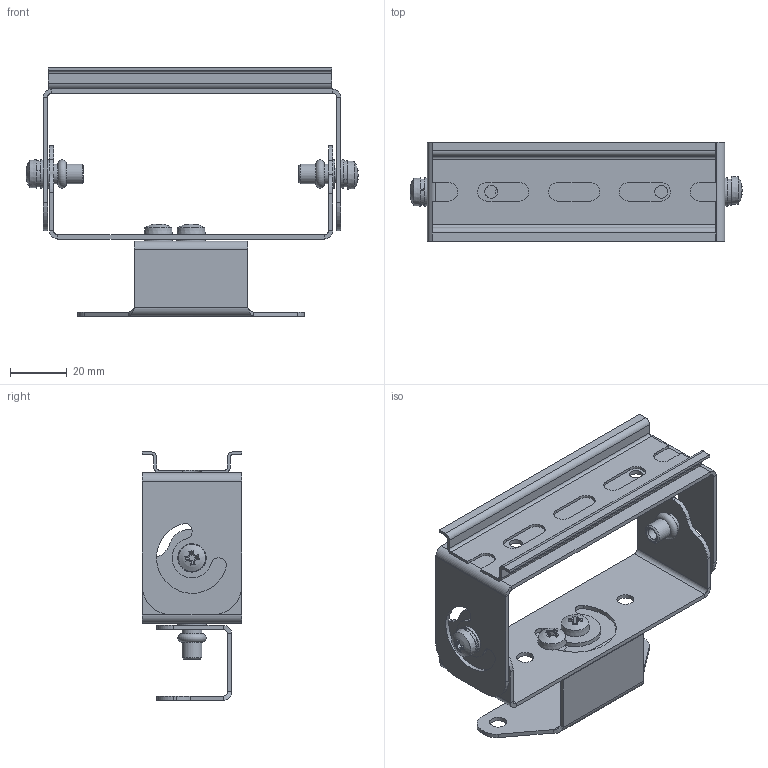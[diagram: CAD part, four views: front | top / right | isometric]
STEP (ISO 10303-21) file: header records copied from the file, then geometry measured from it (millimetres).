
FILE_DESCRIPTION(/* description */ (''),/* implementation_level */ '2;1');
FILE_NAME(/* name */ 'D:\WorkIMT\Project IMT\iVisor\!!!!! КАКТУС\!!! v6\3D Ксении\Кронштейн норм.stp',/* time_stamp */ '2026-06-08T16:11:41+03:00',/* author */ ('admin'),/* organization */ (''),/* preprocessor_version */ 'ST-DEVELOPER v17.2',/* originating_system */ 'Autodesk Inventor 2019',/* authorisation */ '');
FILE_SCHEMA (('AUTOMOTIVE_DESIGN { 1 0 10303 214 3 1 1 }'));
Length unit declared in the file: millimetre
Products named in the file (9): Кронштейн норм; МТ.РС.ОКК.
001; DIN 125 - A 5,3; 02140 DIN рейка OMEGA 3F L100; МТ.РС.ПВК.
001; Заклепка резьбовая 
шлицевая стандартный 
бортик 5M-30LF_KN; DIN 7985 (H) - M5x14-H; DIN 127 - A 5; МТ.РС.ПКК.
001
Assembly tree (16 placements, depth 2):
  Кронштейн норм
    МТ.РС.ОКК.
001
    Заклепка резьбовая 
шлицевая стандартный 
бортик 5M-30LF_KN  x4
    DIN 7985 (H) - M5x14-H  x4
    DIN 125 - A 5,3  x2
    DIN 127 - A 5  x2
    02140 DIN рейка OMEGA 3F L100
    МТ.РС.ПВК.
001
    МТ.РС.ПКК.
001
Bounding box: 117.16 x 35 x 87.75 mm (x, y, z)
Volume: 29658.9 mm3; surface area: 45499.1 mm2
Topology: 16 solids, 16 shells, 401 faces, 1047 edges, 690 vertices
Faces by surface type: plane 190, cylinder 121, cone 76, torus 8, sphere 4, bspline 2
Full cylindrical faces by diameter (mm): 4.2 x4, 4.5 x2, 4.6 x4, 5 x4, 5.3 x2, 5.5 x7, 6 x4, 7 x12, 10 x6
Entity records: 7687 total; most frequent: CARTESIAN_POINT 1368, DIRECTION 1341, ORIENTED_EDGE 1200, EDGE_CURVE 600, AXIS2_PLACEMENT_3D 505, VERTEX_POINT 386, LINE 331, VECTOR 331
